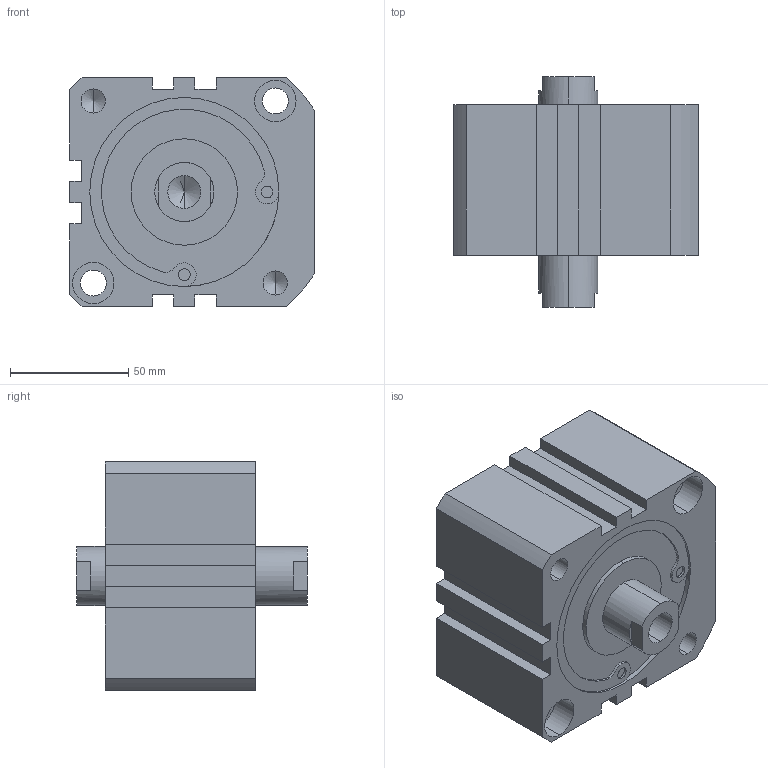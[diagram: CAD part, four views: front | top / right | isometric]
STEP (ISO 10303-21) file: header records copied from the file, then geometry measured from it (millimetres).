
FILE_DESCRIPTION (( 'STEP AP203' ), '1' );
FILE_NAME ('XC#7-80-10.STEP', '2016-05-23T08:27:48', ( '' ), ( '' ), 'SwSTEP 2.0', 'SolidWorks 2014', '' );
FILE_SCHEMA (( 'CONFIG_CONTROL_DESIGN' ));
Length unit declared in the file: millimetre
Products named in the file (1): XC#7-80-10
Bounding box: 103.5 x 97.5 x 97 mm (x, y, z)
Volume: 570861 mm3; surface area: 63961.6 mm2
Topology: 1 solids, 1 shells, 142 faces, 350 edges, 222 vertices
Faces by surface type: cylinder 66, plane 56, cone 20
Entity records: 4269 total; most frequent: DIRECTION 782, CARTESIAN_POINT 707, ORIENTED_EDGE 684, EDGE_CURVE 342, AXIS2_PLACEMENT_3D 297, VERTEX_POINT 222, VECTOR 188, LINE 188
